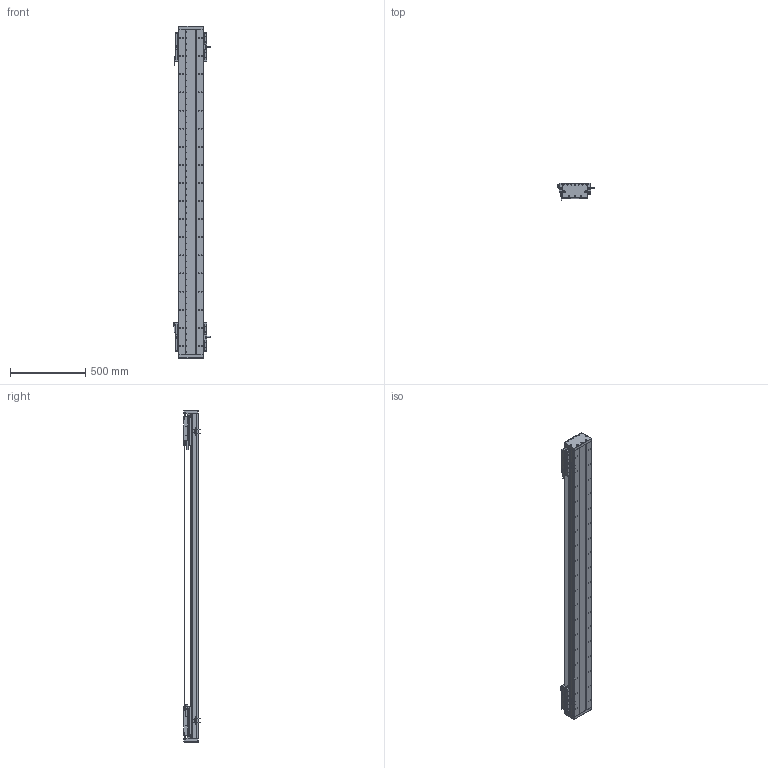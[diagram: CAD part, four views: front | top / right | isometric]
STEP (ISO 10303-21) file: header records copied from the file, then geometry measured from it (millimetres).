
FILE_DESCRIPTION (( 'STEP AP203' ), '1' );
FILE_NAME ('DA-C165-2-C2-T1700-C010-0.2 直线电机.STEP', '2023-05-11T08:23:57', ( '微软用户' ), ( '微软中国' ), 'SwSTEP 2.0', 'SolidWorks 2019', '' );
FILE_SCHEMA (( 'CONFIG_CONTROL_DESIGN' ));
Length unit declared in the file: millimetre
Products named in the file (22): 复件 DA165-GDYK-00 钢带压块^复件 CU165钢带组件_DA-C165-C2-T-C010-0.2-N 直线电机; IU-CU165-L 菁釱絳寢; 珨极趙賑雄怢啣wf-C2; 复件 DMA-010-0.2 读数头^DA-C165-C2-T-C010-0.2-N 直线电机; IU-CU165-L-00 菁釱_L2160; 葩璃 PM-Y45^DA-C165-C2-T-C010-0.2-N 眻盄萇儂; 复件 XD-U-02L 磁栅尺^DA-C165-C2-T-C010-0.2-N 直线电机_T; 葩璃 DA95-GT-T-00^IU-CU165-L 菁釱絳寢_T; 复件 66338-1000-006-00 光电感应块^DA-C165-C2-T-C010-0.2-N 直线电机; 复件 六角薄螺母 M3^DA-C165-C2-T-C010-0.2-N 直线电机_GB_FASTENER_NUT_STNAB M3-C; 复件 DA95-HXJ-00 缓冲橡胶^DA-C165-C2-T-C010-0.2-N 直线电机; 复件 DA165-GD-1860-002-00 钢带盖板^复件 CU165钢带组件_DA-C165-C2-T-C010-0.2-N 直线电机; 复件 DA165-GDLK-00 钢带拉块^复件 CU165钢带组件_DA-C165-C2-T-C010-0.2-N 直线电机; 复件 CKM02-W075-C1C2-TP-3.0 一体电机-C2^DA-C165-C2-T-C010-0.2-N 直线电机; 复件 DKW-HXJ-JY-00 缓冲橡胶^DA-C165-C2-T-C010-0.2-N 直线电机; 复件 DA126-GYP-ZJ-00 中间光电感应片^DA-C165-C2-T-C010-0.2-N 直线电机; 复件 CU165钢带组件^DA-C165-C2-T-C010-0.2-N 直线电机; 葩璃 CKM01-W075-TRL^DA-C165-C2-T-C010-0.2-N 眻盄萇儂; 葩璃 PM-T45^DA-C165-C2-T-C010-0.2-N 眻盄萇儂; 复件 DA165-GYP-00 光电感应片^DA-C165-C2-T-C010-0.2-N 直线电机; DA-C165-2-C2-T1700-C010-0.2 眻盄萇儂; 复件 DA165-GD-DG-H-00 端盖^复件 CU165钢带组件_DA-C165-C2-T-C010-0.2-N 直线电机
Assembly tree (43 placements, depth 3):
  DA-C165-2-C2-T1700-C010-0.2 眻盄萇儂
    IU-CU165-L 菁釱絳寢
      IU-CU165-L-00 菁釱_L2160
      葩璃 DA95-GT-T-00^IU-CU165-L 菁釱絳寢_T  x4
    复件 XD-U-02L 磁栅尺^DA-C165-C2-T-C010-0.2-N 直线电机_T
    葩璃 PM-T45^DA-C165-C2-T-C010-0.2-N 眻盄萇儂  x4
    葩璃 CKM01-W075-TRL^DA-C165-C2-T-C010-0.2-N 眻盄萇儂
    复件 CU165钢带组件^DA-C165-C2-T-C010-0.2-N 直线电机
      复件 DA165-GD-DG-H-00 端盖^复件 CU165钢带组件_DA-C165-C2-T-C010-0.2-N 直线电机  x2
      复件 DA165-GDYK-00 钢带压块^复件 CU165钢带组件_DA-C165-C2-T-C010-0.2-N 直线电机  x2
      复件 DA165-GD-1860-002-00 钢带盖板^复件 CU165钢带组件_DA-C165-C2-T-C010-0.2-N 直线电机
      复件 DA165-GDLK-00 钢带拉块^复件 CU165钢带组件_DA-C165-C2-T-C010-0.2-N 直线电机  x2
    复件 DA95-HXJ-00 缓冲橡胶^DA-C165-C2-T-C010-0.2-N 直线电机  x4
    复件 CKM02-W075-C1C2-TP-3.0 一体电机-C2^DA-C165-C2-T-C010-0.2-N 直线电机  x2
    复件 DMA-010-0.2 读数头^DA-C165-C2-T-C010-0.2-N 直线电机  x2
    复件 DA165-GYP-00 光电感应片^DA-C165-C2-T-C010-0.2-N 直线电机  x2
    复件 66338-1000-006-00 光电感应块^DA-C165-C2-T-C010-0.2-N 直线电机
    葩璃 PM-Y45^DA-C165-C2-T-C010-0.2-N 眻盄萇儂
    复件 DA126-GYP-ZJ-00 中间光电感应片^DA-C165-C2-T-C010-0.2-N 直线电机
    复件 DKW-HXJ-JY-00 缓冲橡胶^DA-C165-C2-T-C010-0.2-N 直线电机  x2
    复件 六角薄螺母 M3^DA-C165-C2-T-C010-0.2-N 直线电机_GB_FASTENER_NUT_STNAB M3-C  x6
    珨极趙賑雄怢啣wf-C2  x2
Bounding box: 247.2 x 111.45 x 2200 mm (x, y, z)
Volume: 14169533.5 mm3; surface area: 4040266.8 mm2
Topology: 119 solids, 119 shells, 5435 faces, 15056 edges, 9468 vertices
Faces by surface type: cylinder 2852, plane 1791, cone 704, torus 80, sphere 8
Entity records: 124958 total; most frequent: CARTESIAN_POINT 32241, ORIENTED_EDGE 19056, DIRECTION 18634, EDGE_CURVE 9528, AXIS2_PLACEMENT_3D 7050, VERTEX_POINT 6205, LINE 4534, VECTOR 4534
